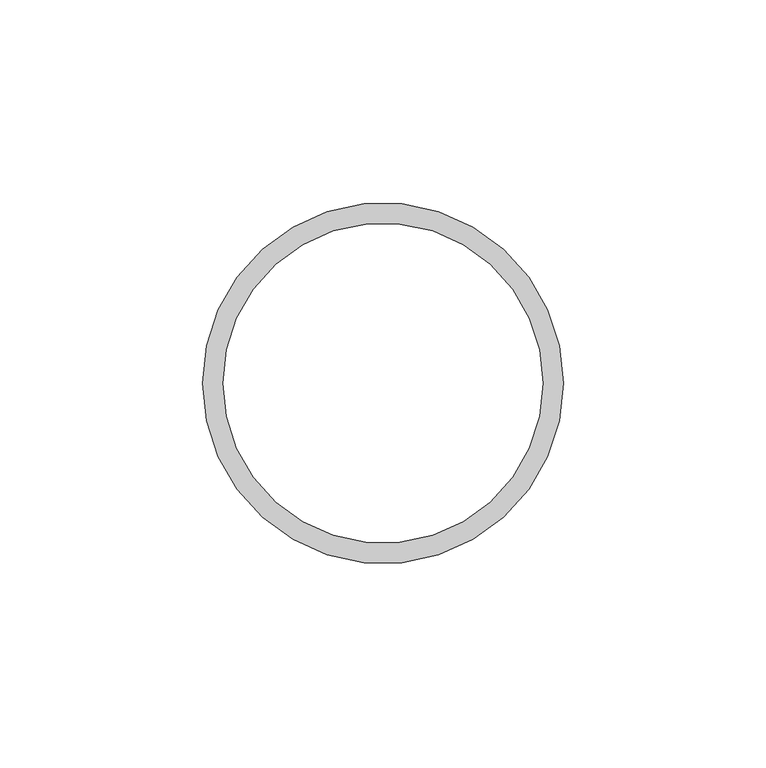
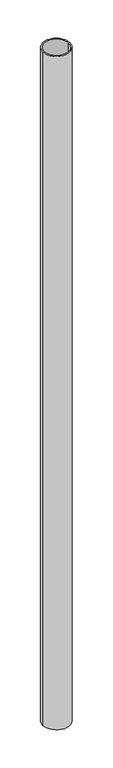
"""IFC4 building model written with IfcOpenShell, lengths in millimetres: column geometry, NLRS_28_SC_TLB_kolom buis_generiek_ISR : ø88.9x5 ."""

from ifc_helpers import new_model, si_unit, point, frame, origin, origin_2d, place, context, project, spatial, circle_curve, trimmed, segment, composite_curve, outline, extrude, source, transform, mapped, element, save


def column_da6b27b0(model_context):
    return source(origin(), model_context, "Body", "SweptSolid", [
        extrude(outline(composite_curve([segment(trimmed(circle_curve(origin_2d(), 44.45), [point((44.45, 0.0))], [point((-44.45, 0.0))], False, "CARTESIAN"), True, "CONTINUOUS"), segment(trimmed(circle_curve(origin_2d(), 44.45), [point((-44.45, 0.0))], [point((44.45, 0.0))], False, "CARTESIAN"), True, "CONTINUOUS")], self_intersect=False), holes=[composite_curve([segment(trimmed(circle_curve(origin_2d(), 39.45), [point((39.45, 0.0))], [point((-39.45, 0.0))], True, "CARTESIAN"), True, "CONTINUOUS"), segment(trimmed(circle_curve(origin_2d(), 39.45), [point((-39.45, 0.0))], [point((39.45, 0.0))], True, "CARTESIAN"), True, "CONTINUOUS")], self_intersect=False)]), frame((0.0, 0.0, 5050.0), z_axis=(0.0, 0.0, 1.0), x_axis=(1.0, 0.0, 0.0)), (0.0, 0.0, 1.0), 2300.0),
    ])


if __name__ == "__main__":
    model = new_model("IFC4")
    model_context = context("Model", 3, world=origin())
    ifc_project = project(units=[si_unit("LENGTHUNIT", "METRE", prefix="MILLI")], contexts=[model_context])
    site = spatial("IfcSite", under=ifc_project)
    building = spatial("IfcBuilding", under=site)
    placement = place(None, origin())
    column_shape = column_da6b27b0(model_context)
    element("IfcColumn", 1, ObjectType="NLRS_28_SC_TLB_kolom buis_generiek_ISR : ø88.9x5 ", at=placement, inside=building, context=model_context, shape_type="MappedRepresentation", body=[
        mapped(column_shape, transform((0.0, 0.0, 0.0), x_axis=(1.0, 0.0, 0.0), y_axis=(0.0, 1.0, 0.0), z_axis=(0.0, 0.0, 1.0))),
    ])
    save(model, "model.ifc")
